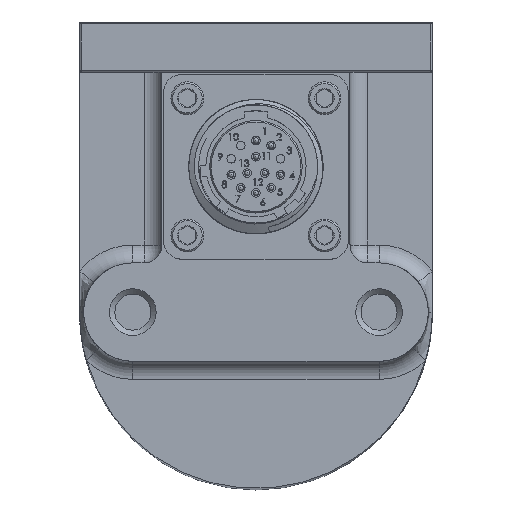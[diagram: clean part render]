
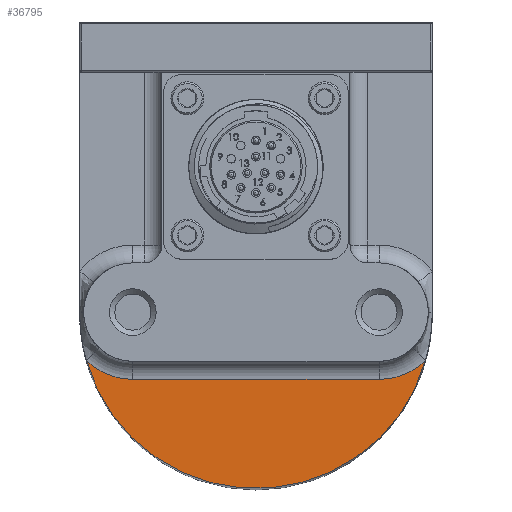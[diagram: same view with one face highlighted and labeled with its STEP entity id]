
A CAD part, top view. The second image highlights one B-rep face of the part: STEP entity #36795.
In plain terms, the highlighted planar face has unit normal (0, 0, 1).
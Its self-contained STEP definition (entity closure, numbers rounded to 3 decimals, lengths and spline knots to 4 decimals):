
#461 = CIRCLE ( 'NONE', #45832, 0.375 ) ;
#2913 = CARTESIAN_POINT ( 'NONE',  ( 0., -0.375, 4.9403 ) ) ;
#3539 = EDGE_CURVE ( 'NONE', #29893, #35438, #3656, .T. ) ;
#3656 = LINE ( 'NONE', #2913, #9626 ) ;
#3942 = DIRECTION ( 'NONE',  ( 0., 0., -1. ) ) ;
#4426 = DIRECTION ( 'NONE',  ( 0., 0., -1. ) ) ;
#5402 = VERTEX_POINT ( 'NONE', #26335 ) ;
#6619 = CARTESIAN_POINT ( 'NONE',  ( 0., 0., 4.9403 ) ) ;
#7527 = CIRCLE ( 'NONE', #35551, 0.9845 ) ;
#8007 = DIRECTION ( 'NONE',  ( 0., 0., 1. ) ) ;
#8345 = ORIENTED_EDGE ( 'NONE', *, *, #3539, .T. ) ;
#9121 = ORIENTED_EDGE ( 'NONE', *, *, #35824, .T. ) ;
#9626 = VECTOR ( 'NONE', #19421, 39.3701 ) ;
#14860 = FACE_OUTER_BOUND ( 'NONE', #27674, .T. ) ;
#14985 = CARTESIAN_POINT ( 'NONE',  ( 0., 0., 4.9403 ) ) ;
#15221 = CARTESIAN_POINT ( 'NONE',  ( -0.9464, -0.2713, 4.9403 ) ) ;
#18329 = AXIS2_PLACEMENT_3D ( 'NONE', #27679, #4426, #31807 ) ;
#19421 = DIRECTION ( 'NONE',  ( -1., 0., 0. ) ) ;
#22333 = DIRECTION ( 'NONE',  ( 0., 0., 1. ) ) ;
#26335 = CARTESIAN_POINT ( 'NONE',  ( 0.9464, -0.2713, 4.9403 ) ) ;
#27674 = EDGE_LOOP ( 'NONE', ( #8345, #39185, #39432, #9121 ) ) ;
#27679 = CARTESIAN_POINT ( 'NONE',  ( 0.6875, 0., 4.9403 ) ) ;
#29661 = CARTESIAN_POINT ( 'NONE',  ( -0.6875, -0.375, 4.9403 ) ) ;
#29893 = VERTEX_POINT ( 'NONE', #48696 ) ;
#30618 = PLANE ( 'NONE',  #33190 ) ;
#31070 = CARTESIAN_POINT ( 'NONE',  ( -0.6875, 0., 4.9403 ) ) ;
#31807 = DIRECTION ( 'NONE',  ( 1., 0., 0. ) ) ;
#33190 = AXIS2_PLACEMENT_3D ( 'NONE', #6619, #22333, #38088 ) ;
#33797 = EDGE_CURVE ( 'NONE', #46918, #5402, #7527, .T. ) ;
#35094 = DIRECTION ( 'NONE',  ( 1., 0., 0. ) ) ;
#35438 = VERTEX_POINT ( 'NONE', #29661 ) ;
#35551 = AXIS2_PLACEMENT_3D ( 'NONE', #14985, #8007, #35094 ) ;
#35824 = EDGE_CURVE ( 'NONE', #5402, #29893, #46319, .T. ) ;
#36795 = ADVANCED_FACE ( 'NONE', ( #14860 ), #30618, .T. ) ;
#38088 = DIRECTION ( 'NONE',  ( 1., 0., 0. ) ) ;
#39065 = DIRECTION ( 'NONE',  ( 1., 0., 0. ) ) ;
#39185 = ORIENTED_EDGE ( 'NONE', *, *, #46564, .T. ) ;
#39432 = ORIENTED_EDGE ( 'NONE', *, *, #33797, .T. ) ;
#45832 = AXIS2_PLACEMENT_3D ( 'NONE', #31070, #3942, #39065 ) ;
#46319 = CIRCLE ( 'NONE', #18329, 0.375 ) ;
#46564 = EDGE_CURVE ( 'NONE', #35438, #46918, #461, .T. ) ;
#46918 = VERTEX_POINT ( 'NONE', #15221 ) ;
#48696 = CARTESIAN_POINT ( 'NONE',  ( 0.6875, -0.375, 4.9403 ) ) ;
